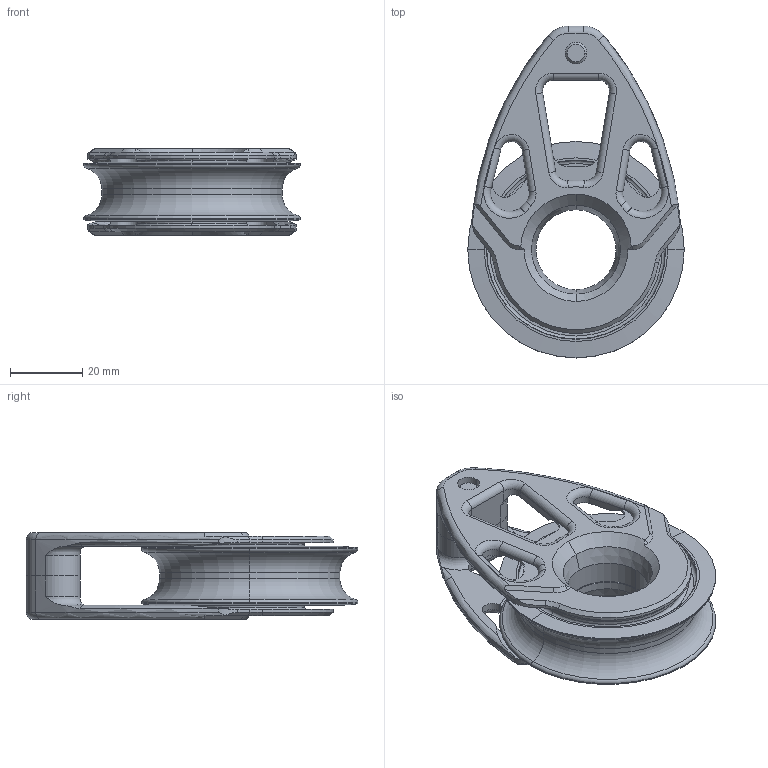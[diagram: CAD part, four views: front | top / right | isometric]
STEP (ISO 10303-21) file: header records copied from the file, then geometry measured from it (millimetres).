
FILE_DESCRIPTION((''),'2;1');
FILE_NAME('29901647_ASM','2005-05-31T',('NBelton'),(''),'PRO/ENGINEER BY PARAMETRIC TECHNOLOGY CORPORATION, 2004320','PRO/ENGINEER BY PARAMETRIC TECHNOLOGY CORPORATION, 2004320','');
FILE_SCHEMA(('CONFIG_CONTROL_DESIGN'));
Length unit declared in the file: millimetre
Products named in the file (5): 25002790; 25002791; 25000510; B0679S; 29901647_ASM
Assembly tree (4 placements, depth 2):
  29901647_ASM
    25002790
    25002791
    25000510
    B0679S
Bounding box: 60 x 92 x 24.1 mm (x, y, z)
Volume: 35464.7 mm3; surface area: 27826.7 mm2
Topology: 4 solids, 4 shells, 343 faces, 888 edges, 556 vertices
Faces by surface type: cylinder 150, torus 82, plane 77, cone 34
Entity records: 11071 total; most frequent: CARTESIAN_POINT 2226, DIRECTION 2020, ORIENTED_EDGE 1776, EDGE_CURVE 888, AXIS2_PLACEMENT_3D 848, VERTEX_POINT 556, CIRCLE 496, EDGE_LOOP 368
